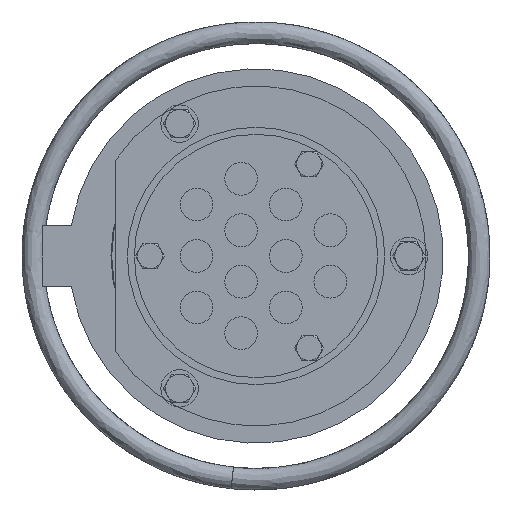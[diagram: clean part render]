
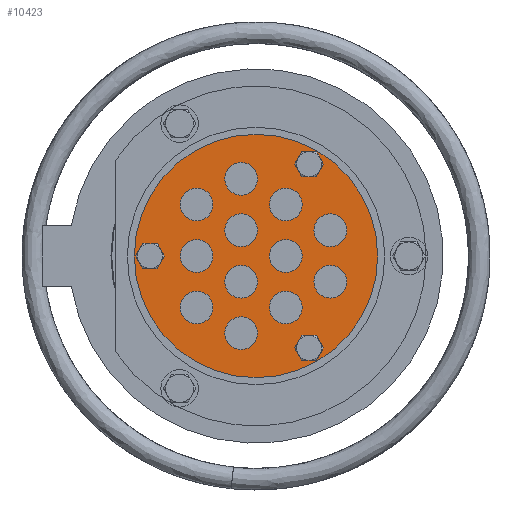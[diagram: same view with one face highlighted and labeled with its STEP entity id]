
A CAD part, left-side view. The second image highlights one B-rep face of the part: STEP entity #10423.
In plain terms, the highlighted planar face has unit normal (-1, 0, 0).
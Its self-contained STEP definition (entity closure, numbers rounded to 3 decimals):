
#1837=PLANE('',#11228);
#2372=FACE_OUTER_BOUND('',#3013,.T.);
#3013=EDGE_LOOP('',(#8631));
#3769=CIRCLE('',#11229,78.);
#4651=VERTEX_POINT('',#34752);
#6003=EDGE_CURVE('',#4651,#4651,#3769,.T.);
#8631=ORIENTED_EDGE('',*,*,#6003,.T.);
#10423=ADVANCED_FACE('',(#2372),#1837,.T.);
#11228=AXIS2_PLACEMENT_3D('',#34751,#13186,#13187);
#11229=AXIS2_PLACEMENT_3D('',#34753,#13188,#13189);
#13186=DIRECTION('center_axis',(-1.,0.,0.));
#13187=DIRECTION('ref_axis',(0.,-1.,0.));
#13188=DIRECTION('center_axis',(-1.,0.,0.));
#13189=DIRECTION('ref_axis',(0.,0.,
1.));
#34751=CARTESIAN_POINT('Origin',(-71.,0.,0.));
#34752=CARTESIAN_POINT('',(-71.,0.,-78.));
#34753=CARTESIAN_POINT('Origin',(-71.,0.,0.));
